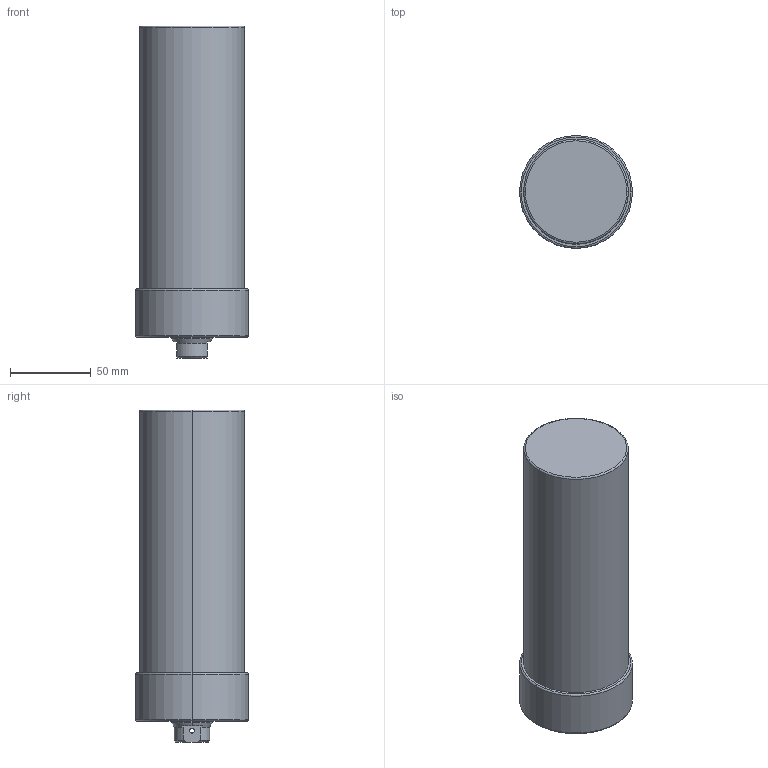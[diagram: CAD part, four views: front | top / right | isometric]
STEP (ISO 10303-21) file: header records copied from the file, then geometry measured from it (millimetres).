
FILE_DESCRIPTION (( 'STEP AP203' ), '1' );
FILE_NAME ('CLLU-065GB-130.STEP', '2020-01-07T06:47:25', ( '' ), ( '' ), 'SwSTEP 2.0', 'SolidWorks 2015', '' );
FILE_SCHEMA (( 'CONFIG_CONTROL_DESIGN' ));
Length unit declared in the file: millimetre
Products named in the file (1): CLLU-065GB-130
Bounding box: 70 x 70 x 206 mm (x, y, z)
Volume: 656709 mm3; surface area: 50366.4 mm2
Topology: 1 solids, 1 shells, 66 faces, 154 edges, 87 vertices
Faces by surface type: cylinder 26, cone 24, plane 10, torus 6
Entity records: 2001 total; most frequent: CARTESIAN_POINT 430, DIRECTION 342, ORIENTED_EDGE 288, EDGE_CURVE 144, AXIS2_PLACEMENT_3D 143, VERTEX_POINT 87, EDGE_LOOP 77, CIRCLE 76
